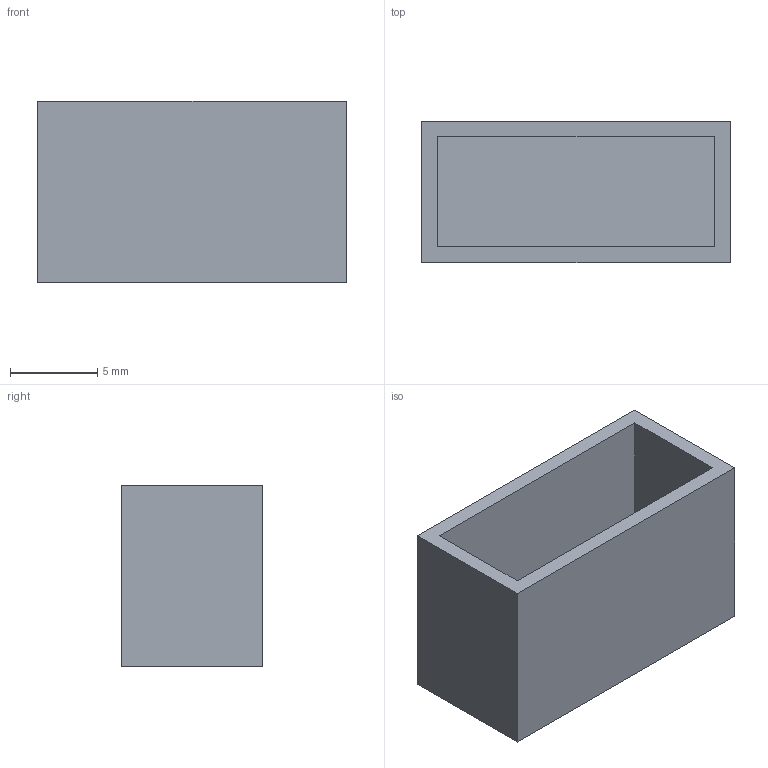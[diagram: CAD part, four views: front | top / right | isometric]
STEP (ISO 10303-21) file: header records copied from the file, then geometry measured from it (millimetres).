
FILE_DESCRIPTION(('Open CASCADE Model'),'2;1');
FILE_NAME('Open CASCADE Shape Model','2026-11-21T14:29:11',('Author'),( 'Open CASCADE'),'Open CASCADE STEP processor 7.9','Open CASCADE 7.9' ,'Unknown');
FILE_SCHEMA(('AUTOMOTIVE_DESIGN { 1 0 10303 214 1 1 1 1 }'));
Length unit declared in the file: millimetre
Products named in the file (2): JST_VH_4P; d43b2934-e5e1-11f1-bb71-8157894c7c6c
Assembly tree (1 placements, depth 2):
  JST_VH_4P
    d43b2934-e5e1-11f1-bb71-8157894c7c6c
Bounding box: 17.63 x 8.1 x 10.4 mm (x, y, z)
Volume: 797 mm3; surface area: 1126.2 mm2
Topology: 1 solids, 1 shells, 11 faces, 24 edges, 16 vertices
Faces by surface type: plane 11
Entity records: 639 total; most frequent: CARTESIAN_POINT 109, DIRECTION 90, LINE 64, VECTOR 64, ORIENTED_EDGE 48, PCURVE 48, DEFINITIONAL_REPRESENTATION 48, EDGE_CURVE 24
